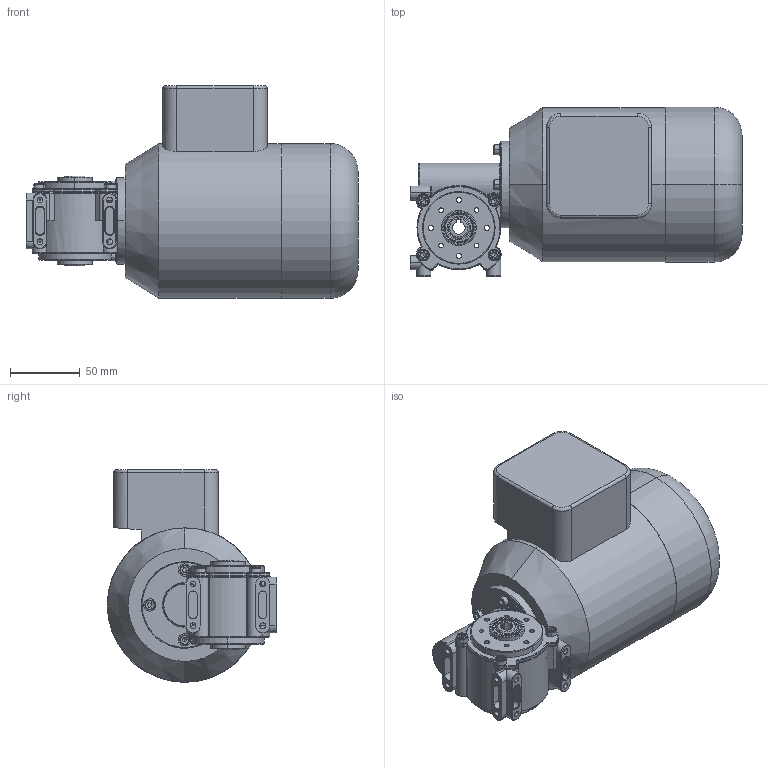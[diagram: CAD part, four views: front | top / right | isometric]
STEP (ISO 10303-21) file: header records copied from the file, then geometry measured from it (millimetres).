
FILE_DESCRIPTION (( 'STEP AP214' ), '1' );
FILE_NAME ('SN18H_90W_1400Upm_A.STEP', '2021-03-17T08:01:46', ( '' ), ( '' ), 'SwSTEP 2.0', 'SolidWorks 2019', '' );
FILE_SCHEMA (( 'AUTOMOTIVE_DESIGN' ));
Length unit declared in the file: millimetre
Products named in the file (1): SN18H_90W_1400Upm_A
Bounding box: 238 x 121.5 x 152.5 mm (x, y, z)
Surface area: 119256.4 mm2 (no closed solid volume)
Topology: 0 solids, 17 shells, 537 faces, 1485 edges, 962 vertices
Faces by surface type: cylinder 280, torus 125, plane 94, cone 30, sphere 4, bspline 4
Entity records: 25655 total; most frequent: CARTESIAN_POINT 5859, DIRECTION 3148, ORIENTED_EDGE 2702, EDGE_CURVE 1471, AXIS2_PLACEMENT_3D 1335, VERTEX_POINT 960, CIRCLE 801, EDGE_LOOP 615
